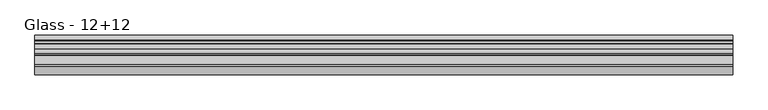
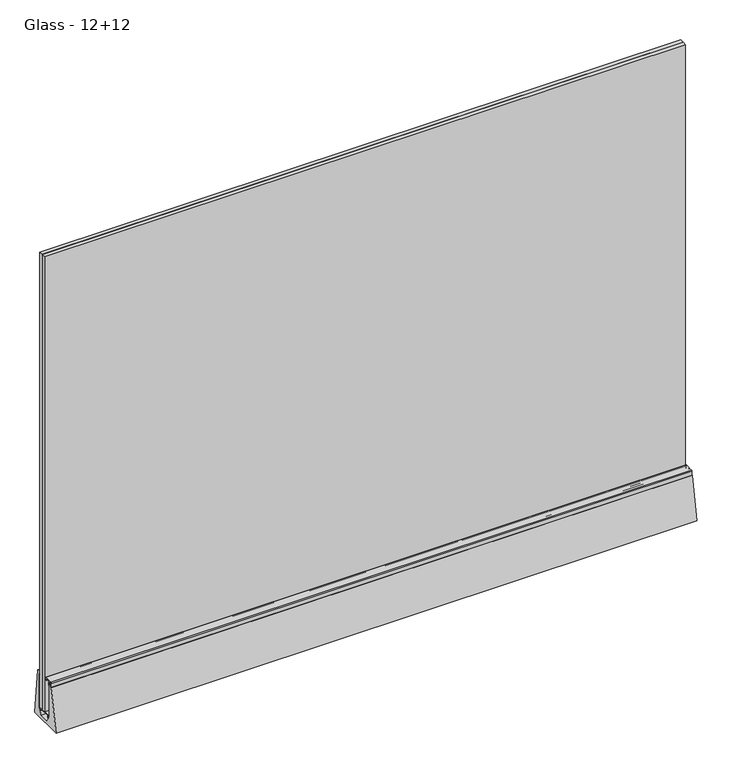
"""IFC4 building model written with IfcOpenShell, lengths in millimetres: proxy geometry, Construction_Slope-Glazing_Faraone_Linea-3-Maxi : Glass - 12+12."""

from ifc_helpers import new_model, si_unit, point, frame, frame_2d, origin, place, context, project, spatial, polyline, circle_curve, trimmed, segment, composite_curve, outline, extrude, source, transform, mapped, element, save


def glass_12_12_1987979f(model_context):
    return source(origin(), model_context, "Body", "SweptSolid", [
        extrude(outline(polyline([(1000.0, 29.9536793), (1000.0, 18.0036793), (-1000.0, 18.0036793), (-1000.0, 29.9536793), (1000.0, 29.9536793)])), frame((0.0, 0.0, 32.9998941), z_axis=(0.0, 0.0, 1.0), x_axis=(1.0, 0.0, 0.0)), (0.0, 0.0, 1.0), 1500.0),
        extrude(outline(polyline([(1000.0, 16.4036793), (1000.0, 4.4536793), (-1000.0, 4.4536793), (-1000.0, 16.4036793), (1000.0, 16.4036793)])), frame((0.0, 0.0, 32.9998941), z_axis=(0.0, 0.0, 1.0), x_axis=(1.0, 0.0, 0.0)), (0.0, 0.0, 1.0), 1500.0),
        extrude(outline(polyline([(27.9495501, 27.4998941), (28.9495501, 27.4998941), (27.9495501, 23.9998941), (25.4495501, 23.9998941), (25.4495501, 29.9998941), (-10.950381, 29.9998941), (-10.950381, 23.9998941), (-13.450381, 23.9998941), (-14.4501535, 27.4998941), (-13.450381, 27.4998941), (-13.450381, 30.0001664), (-16.4959153, 30.0001664), (-16.4959153, 32.9998941), (30.7553177, 32.9998941), (30.7553177, 140.9999202), (33.4499946, 140.9999202), (33.4499946, 29.9998941), (27.9495501, 29.9998941), (27.9495501, 27.4998941)])), frame((-1000.0, 0.0, 0.0), z_axis=(1.0, 0.0, 0.0), x_axis=(0.0, 1.0, 0.0)), (0.0, 0.0, 1.0), 2000.0),
        extrude(outline(composite_curve([segment(trimmed(circle_curve(frame_2d((-0.5622607, 149.6202564)), 0.5), [point((-0.5622607, 150.1202564))], [point((-0.0622607, 149.6202564))], False, "CARTESIAN"), True, "CONTINUOUS"), segment(polyline([(-0.0622607, 149.6202564), (-0.0622607, 147.5116834), (-0.8559184, 147.5116834), (-0.8559184, 148.7592807), (-1.7540112, 148.7592807)]), True, "CONTINUOUS"), segment(trimmed(circle_curve(frame_2d((-1.7540112, 148.251018)), 0.5082627), [point((-1.7540112, 148.7592807))], [point((-2.2622739, 148.251018))], True, "CARTESIAN"), True, "CONTINUOUS"), segment(polyline([(-2.2622739, 148.251018), (-2.2622739, 143.7675435)]), True, "CONTINUOUS"), segment(trimmed(circle_curve(frame_2d((-1.7540112, 143.7675435)), 0.5082627), [point((-2.2622739, 143.7675435))], [point((-1.7540112, 143.2592807))], True, "CARTESIAN"), True, "CONTINUOUS"), segment(polyline([(-1.7540112, 143.2592807), (-0.8559184, 143.2592807), (-0.8559184, 144.5068781), (-0.0622607, 144.5068781), (-0.0622607, 142.5592807)]), True, "CONTINUOUS"), segment(trimmed(circle_curve(frame_2d((-0.5622607, 142.5592807)), 0.5), [point((-0.0622607, 142.5592807))], [point((-0.5622607, 142.0592807))], False, "CARTESIAN"), True, "CONTINUOUS"), segment(polyline([(-0.5622607, 142.0592807), (-2.9622736, 142.0592807)]), True, "CONTINUOUS"), segment(trimmed(circle_curve(frame_2d((-2.9622736, 142.559281)), 0.5000003), [point((-2.9622736, 142.0592807))], [point((-3.4622739, 142.559281))], False, "CARTESIAN"), True, "CONTINUOUS"), segment(polyline([(-3.4622739, 142.559281), (-3.4622739, 148.1202567)]), True, "CONTINUOUS"), segment(trimmed(circle_curve(frame_2d((-3.9622739, 148.1202567)), 0.5), [point((-3.4622739, 148.1202567))], [point((-3.9622739, 148.6202567))], True, "CARTESIAN"), True, "CONTINUOUS"), segment(polyline([(-3.9622739, 148.6202567), (-18.4381651, 148.6202569), (-18.4381651, 134.8497503), (-20.5252665, 134.8497503), (-20.5252665, 139.9087036), (-19.6381651, 139.9087036), (-19.6381651, 147.8202569)]), True, "CONTINUOUS"), segment(trimmed(circle_curve(frame_2d((-19.6381651, 148.2202569)), 0.4), [point((-19.6381651, 147.8202569))], [point((-19.6381651, 148.6202569))], True, "CARTESIAN"), True, "CONTINUOUS"), segment(polyline([(-19.6381651, 148.6202569), (-28.9632186, 148.6202569)]), True, "CONTINUOUS"), segment(trimmed(circle_curve(frame_2d((-28.9632186, 147.1202566)), 1.5000003), [point((-28.9632186, 148.6202569))], [point((-30.4632189, 147.1202566))], True, "CARTESIAN"), True, "CONTINUOUS"), segment(polyline([(-30.4632189, 147.1202566), (-30.4632189, 139.9087036), (-29.5827199, 139.9087036), (-29.5827199, 134.8497503), (-31.6632189, 134.8505456), (-31.6632189, 147.1202564)]), True, "CONTINUOUS"), segment(trimmed(circle_curve(frame_2d((-28.6632189, 147.1202564)), 3.0), [point((-31.6632189, 147.1202564))], [point((-28.6632189, 150.1202564))], False, "CARTESIAN"), True, "CONTINUOUS"), segment(polyline([(-28.6632189, 150.1202564), (-0.5622607, 150.1202564)]), True, "CONTINUOUS")], self_intersect=False)), frame((-1000.0, 0.0, 0.0), z_axis=(1.0, 0.0, 0.0), x_axis=(0.0, 1.0, 0.0)), (0.0, 0.0, 1.0), 2000.0),
        extrude(outline(composite_curve([segment(polyline([(-57.25, 0.0), (-31.812192, 134.8497503), (-29.5827199, 134.8497503), (-29.5827199, 141.7168813), (-20.5252665, 141.7168813), (-20.5252665, 134.8497503), (-18.9499762, 134.8497503), (-18.9499762, 30.0001664), (-13.9493491, 30.0001664), (-13.9493491, 28.0001664), (-19.2314658, 28.0001664), (-7.6590914, 11.0005351), (22.522986, 11.0002742), (33.5998649, 28.0000261), (28.4500912, 28.0000261), (28.4500912, 29.9998941), (33.4499946, 29.9998941), (33.4499271, 149.9042043), (40.4619354, 149.9042043)]), True, "CONTINUOUS"), segment(trimmed(circle_curve(frame_2d((40.4619354, 148.7574992)), 1.1467051), [point((40.4619354, 149.9042043))], [point((41.6023587, 148.8773626))], False, "CARTESIAN"), True, "CONTINUOUS"), segment(polyline([(41.6023587, 148.8773626), (57.25, 0.0), (-57.25, 0.0)]), True, "CONTINUOUS")], self_intersect=False)), frame((-1000.0, 0.0, 0.0), z_axis=(1.0, 0.0, 0.0), x_axis=(0.0, 1.0, 0.0)), (0.0, 0.0, 1.0), 2000.0),
    ])


if __name__ == "__main__":
    model = new_model("IFC4")
    model_context = context("Model", 3, world=origin())
    ifc_project = project(units=[si_unit("LENGTHUNIT", "METRE", prefix="MILLI")], contexts=[model_context])
    site = spatial("IfcSite", under=ifc_project)
    building = spatial("IfcBuilding", under=site)
    placement = place(None, origin())
    glass_12_12_shape = glass_12_12_1987979f(model_context)
    element("IfcBuildingElementProxy", 1, Name="Construction_Slope-Glazing_Faraone_Linea-3-Maxi : Glass - 12+12", ObjectType="Construction_Slope-Glazing_Faraone_Linea-3-Maxi : Glass - 12+12", at=placement, inside=building, context=model_context, shape_type="MappedRepresentation", body=[
        mapped(glass_12_12_shape, transform((0.0, 0.0, 0.0), x_axis=(1.0, 0.0, 0.0), y_axis=(0.0, 1.0, 0.0), z_axis=(0.0, 0.0, 1.0))),
    ])
    save(model, "model.ifc")
